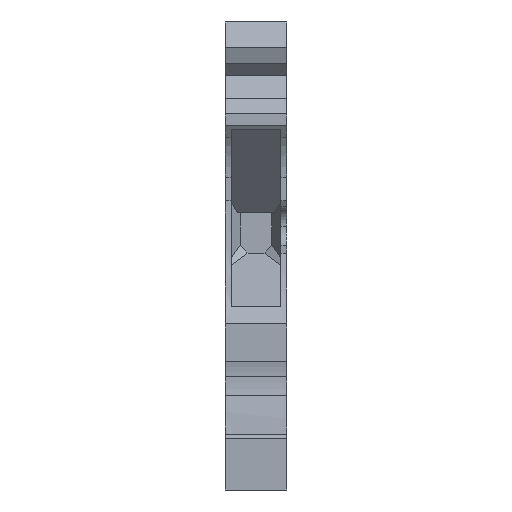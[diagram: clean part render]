
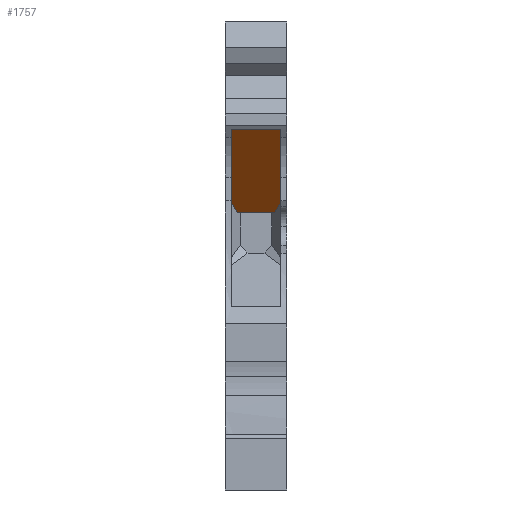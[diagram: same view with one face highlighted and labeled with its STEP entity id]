
A CAD part, front view. The second image highlights one B-rep face of the part: STEP entity #1757.
In plain terms, the highlighted planar face has unit normal (0, -0.715, -0.699).
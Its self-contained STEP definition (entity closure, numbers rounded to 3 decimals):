
#1678=CARTESIAN_POINT('',(5.55,2.428,36.125));
#1679=VERTEX_POINT('',#1678);
#1686=CARTESIAN_POINT('',(5.55,9.559,28.827));
#1687=VERTEX_POINT('',#1686);
#1688=CARTESIAN_POINT('',(5.55,9.559,28.827));
#1689=DIRECTION('',(0.,-0.699,0.715));
#1690=VECTOR('',#1689,10.204);
#1691=LINE('',#1688,#1690);
#1692=EDGE_CURVE('',#1687,#1679,#1691,.T.);
#1711=CARTESIAN_POINT('',(6.765,10.275,28.095));
#1712=DIRECTION('',(-0.,0.715,0.699));
#1713=DIRECTION('',(0.,-0.699,0.715));
#1714=AXIS2_PLACEMENT_3D('',#1711,#1712,#1713);
#1715=PLANE('',#1714);
#1716=CARTESIAN_POINT('',(0.6,2.428,36.125));
#1717=VERTEX_POINT('',#1716);
#1718=CARTESIAN_POINT('',(5.55,2.428,36.125));
#1719=DIRECTION('',(-1.,-0.,-0.));
#1720=VECTOR('',#1719,4.95);
#1721=LINE('',#1718,#1720);
#1722=EDGE_CURVE('',#1679,#1717,#1721,.T.);
#1723=ORIENTED_EDGE('',*,*,#1722,.T.);
#1724=CARTESIAN_POINT('',(0.6,9.559,28.827));
#1725=VERTEX_POINT('',#1724);
#1726=CARTESIAN_POINT('',(0.6,2.428,36.125));
#1727=DIRECTION('',(-0.,0.699,-0.715));
#1728=VECTOR('',#1727,10.204);
#1729=LINE('',#1726,#1728);
#1730=EDGE_CURVE('',#1717,#1725,#1729,.T.);
#1731=ORIENTED_EDGE('',*,*,#1730,.T.);
#1732=CARTESIAN_POINT('',(1.208,10.612,27.75));
#1733=VERTEX_POINT('',#1732);
#1734=CARTESIAN_POINT('',(0.6,9.559,28.827));
#1735=DIRECTION('',(0.374,0.648,-0.663));
#1736=VECTOR('',#1735,1.624);
#1737=LINE('',#1734,#1736);
#1738=EDGE_CURVE('',#1725,#1733,#1737,.T.);
#1739=ORIENTED_EDGE('',*,*,#1738,.T.);
#1740=CARTESIAN_POINT('',(4.942,10.612,27.75));
#1741=VERTEX_POINT('',#1740);
#1742=CARTESIAN_POINT('',(1.208,10.612,27.75));
#1743=DIRECTION('',(1.,0.,0.));
#1744=VECTOR('',#1743,3.734);
#1745=LINE('',#1742,#1744);
#1746=EDGE_CURVE('',#1733,#1741,#1745,.T.);
#1747=ORIENTED_EDGE('',*,*,#1746,.T.);
#1748=CARTESIAN_POINT('',(5.55,9.559,28.827));
#1749=DIRECTION('',(-0.374,0.648,-0.663));
#1750=VECTOR('',#1749,1.624);
#1751=LINE('',#1748,#1750);
#1752=EDGE_CURVE('',#1687,#1741,#1751,.T.);
#1753=ORIENTED_EDGE('',*,*,#1752,.F.);
#1754=ORIENTED_EDGE('',*,*,#1692,.T.);
#1755=EDGE_LOOP('',(#1723,#1731,#1739,#1747,#1753,#1754));
#1756=FACE_BOUND('',#1755,.T.);
#1757=ADVANCED_FACE('',(#1756),#1715,.F.);
